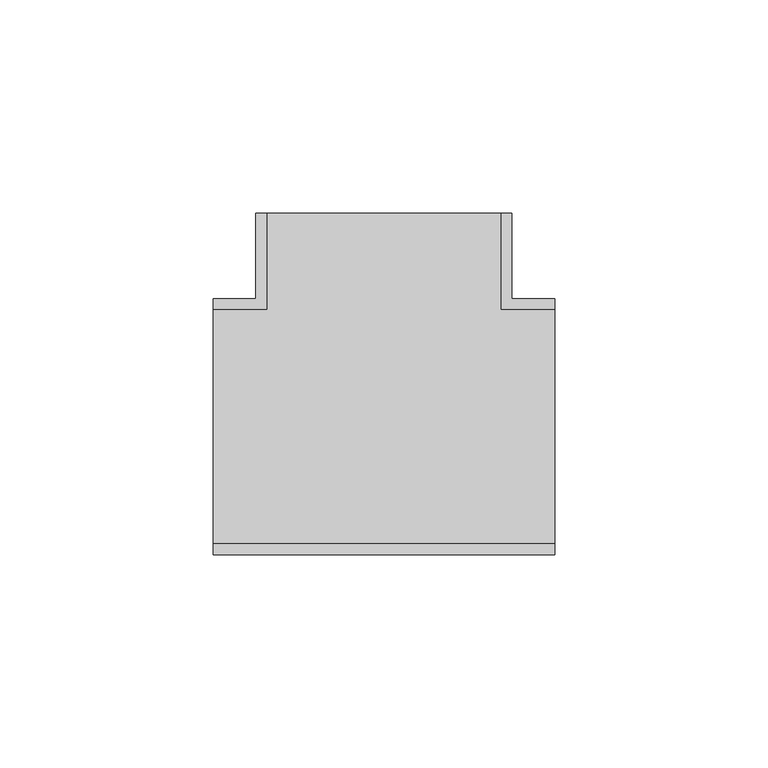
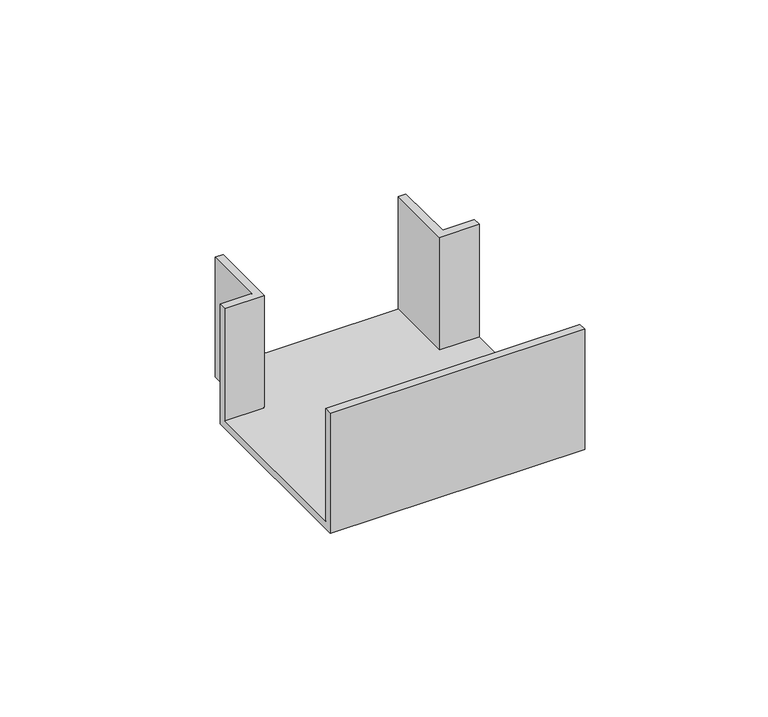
"""IFC4 building model written with IfcOpenShell, lengths in millimetres: cable carrier fitting geometry, КНС_ТройникNTAN_ILC_DKC : Тройник/отвод."""

from ifc_helpers import new_model, si_unit, origin, place, context, project, spatial, faceted_brep, source, transform, mapped, element, save


def cable_carrier_fitting_88e0e610(model_context):
    return source(origin(), model_context, "Body", "Brep", [
        faceted_brep([(40.0, -27.5, -17.5), (40.0, 27.5, -17.5), (27.5, 27.5, -17.5), (27.5, 50.0, -17.5), (-27.5, 50.0, -17.5), (-27.5, 27.5, -17.5), (-40.0, 27.5, -17.5), (-40.0, -27.5, -17.5), (40.0, -30.0, -20.0), (-40.0, -30.0, -20.0), (-40.0, 30.0, -20.0), (-30.0, 30.0, -20.0), (-30.0, 50.0, -20.0), (30.0, 50.0, -20.0), (30.0, 30.0, -20.0), (40.0, 30.0, -20.0), (40.0, 30.0, 20.0), (40.0, 27.5, 20.0), (40.0, -27.5, 20.0), (40.0, -30.0, 20.0), (30.0, 30.0, 20.0), (30.0, 50.0, 20.0), (-30.0, 50.0, 20.0), (-27.5, 50.0, 20.0), (27.5, 50.0, 20.0), (-30.0, 30.0, 20.0), (-40.0, 30.0, 20.0), (-40.0, -30.0, 20.0), (-40.0, -27.5, 20.0), (-40.0, 27.5, 20.0), (27.5, 27.5, 20.0), (-27.5, 27.5, 20.0)], [[[0, 1, 2, 3, 4, 5, 6, 7]], [[8, 9, 10, 11, 12, 13, 14, 15]], [[8, 15, 16, 17, 1, 0, 18, 19]], [[16, 15, 14, 20]], [[20, 14, 13, 21]], [[21, 13, 12, 22, 23, 4, 3, 24]], [[22, 12, 11, 25]], [[25, 11, 10, 26]], [[26, 10, 9, 27, 28, 7, 6, 29]], [[27, 9, 8, 19]], [[20, 21, 24, 30, 17, 16]], [[25, 26, 29, 31, 23, 22]], [[27, 19, 18, 28]], [[31, 29, 6, 5]], [[23, 31, 5, 4]], [[30, 24, 3, 2]], [[17, 30, 2, 1]], [[28, 18, 0, 7]]]),
    ])


if __name__ == "__main__":
    model = new_model("IFC4")
    model_context = context("Model", 3, world=origin())
    ifc_project = project(units=[si_unit("LENGTHUNIT", "METRE", prefix="MILLI")], contexts=[model_context])
    site = spatial("IfcSite", under=ifc_project)
    building = spatial("IfcBuilding", under=site)
    placement = place(None, origin())
    cable_carrier_fitting_shape = cable_carrier_fitting_88e0e610(model_context)
    element("IfcCableCarrierFitting", 1, ObjectType="КНС_ТройникNTAN_ILC_DKC : Тройник/отвод", at=placement, inside=building, context=model_context, shape_type="MappedRepresentation", body=[
        mapped(cable_carrier_fitting_shape, transform((0.0, 0.0, 0.0), x_axis=(1.0, 0.0, 0.0), y_axis=(0.0, 1.0, 0.0), z_axis=(0.0, 0.0, 1.0))),
    ])
    save(model, "model.ifc")
